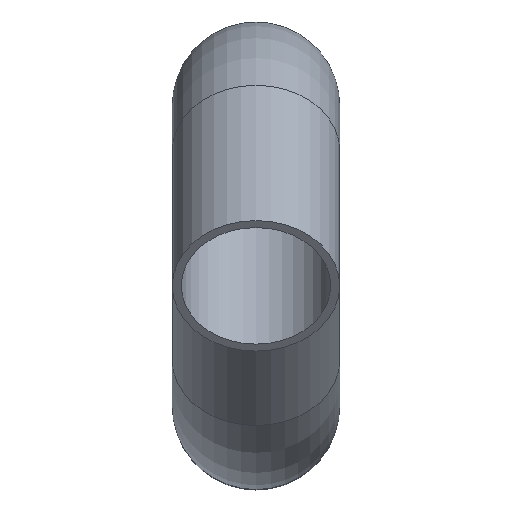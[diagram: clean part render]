
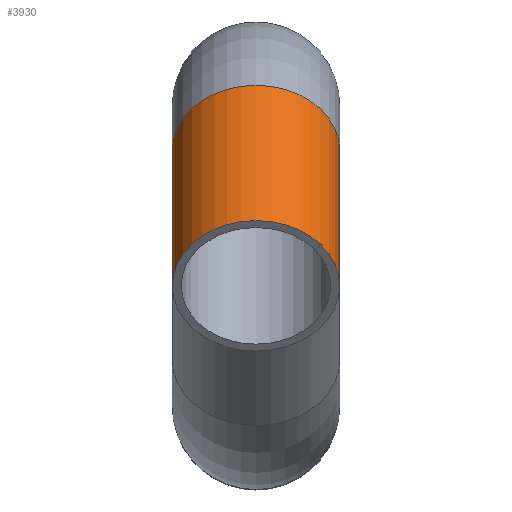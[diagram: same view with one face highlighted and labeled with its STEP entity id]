
A CAD part, top view. The second image highlights one B-rep face of the part: STEP entity #3930.
In plain terms, the highlighted cylindrical face has radius 14 mm (diameter 28 mm), a partial arc.
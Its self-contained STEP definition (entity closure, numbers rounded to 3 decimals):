
#2220=CARTESIAN_POINT('',(33.796,89.583,157.344));
#2230=VERTEX_POINT('',#2220);
#2380=CARTESIAN_POINT('',(61.796,89.583,157.344));
#2390=VERTEX_POINT('',#2380);
#2420=CARTESIAN_POINT('',(47.796,89.583,157.344));
#2430=DIRECTION('',(0.,-0.628,0.778));
#2440=DIRECTION('',(1.,0.,0.));
#2450=AXIS2_PLACEMENT_3D('',#2420,#2430,#2440);
#2460=CIRCLE('',#2450,14.);
#2470=EDGE_CURVE('',#2390,#2230,#2460,.T.);
#2860=CARTESIAN_POINT('',(47.796,89.583,157.344));
#2870=DIRECTION('',(0.,-0.628,0.778));
#2880=DIRECTION('',(1.,0.,0.));
#2890=AXIS2_PLACEMENT_3D('',#2860,#2870,#2880);
#2900=CYLINDRICAL_SURFACE('',#2890,14.);
#2910=CARTESIAN_POINT('',(61.796,89.583,157.344));
#2920=DIRECTION('',(0.,-0.628,0.778));
#2930=VECTOR('',#2920,1.);
#2940=LINE('',#2910,#2930);
#2950=CARTESIAN_POINT('',(61.796,66.921,185.444));
#2960=VERTEX_POINT('',#2950);
#2970=EDGE_CURVE('',#2390,#2960,#2940,.T.);
#3010=CARTESIAN_POINT('',(33.796,89.583,157.344));
#3020=DIRECTION('',(0.,-0.628,0.778));
#3030=VECTOR('',#3020,1.);
#3040=LINE('',#3010,#3030);
#3050=CARTESIAN_POINT('',(33.796,66.921,185.444));
#3060=VERTEX_POINT('',#3050);
#3070=EDGE_CURVE('',#2230,#3060,#3040,.T.);
#3090=CARTESIAN_POINT('',(47.796,66.921,185.444));
#3100=DIRECTION('',(0.,-0.628,0.778));
#3110=DIRECTION('',(1.,0.,0.));
#3120=AXIS2_PLACEMENT_3D('',#3090,#3100,#3110);
#3130=CIRCLE('',#3120,14.);
#3240=EDGE_CURVE('',#2960,#3060,#3130,.T.);
#3870=ORIENTED_EDGE('',*,*,#2970,.F.);
#3880=ORIENTED_EDGE('',*,*,#3240,.F.);
#3890=ORIENTED_EDGE('',*,*,#3070,.T.);
#3900=ORIENTED_EDGE('',*,*,#2470,.T.);
#3910=EDGE_LOOP('',(#3900,#3890,#3880,#3870));
#3920=FACE_OUTER_BOUND('',#3910,.T.);
#3930=ADVANCED_FACE('',(#3920),#2900,.T.);
